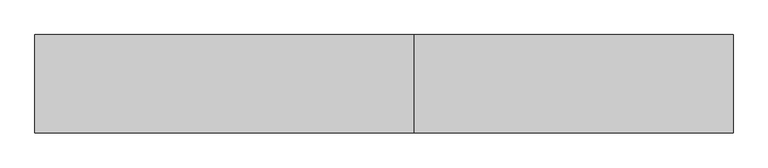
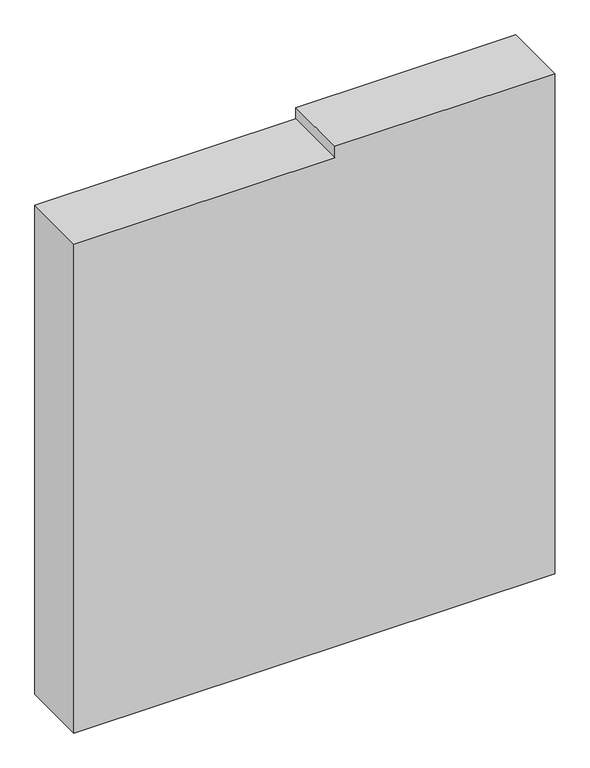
"""IFC4 building model written with IfcOpenShell, lengths in millimetres: proxy geometry."""

from ifc_helpers import new_model, si_unit, origin, place, context, project, spatial, faceted_brep, source, transform, mapped, element, save


def generic_models_cc848036(model_context):
    return source(origin(), model_context, "Body", "Brep", [
        faceted_brep([(-20694.9988284, -19100.7903364, 3130.0), (-20694.9988284, -18700.7903364, 3130.0), (-21494.9988284, -18700.7903364, 3130.0), (-21994.9988284, -18700.7903364, 3130.0), (-21994.9988284, -19100.7903364, 3130.0), (-20694.9988284, -19100.7903364, 0.0), (-23539.9988284, -19100.7903364, 0.0), (-23539.9988284, -18700.7903364, 0.0), (-21494.9988284, -18700.7903364, 0.0), (-20694.9988284, -18700.7903364, 0.0), (-21994.9988284, -19100.7903364, 3060.0), (-23539.9988284, -19100.7903364, 3060.0), (-23539.9988284, -18700.7903364, 3060.0), (-21994.9988284, -18700.7903364, 3060.0)], [[[0, 1, 2, 3, 4]], [[5, 6, 7, 8, 9]], [[6, 5, 0, 4, 10, 11]], [[1, 0, 5, 9]], [[2, 1, 9, 8]], [[8, 7, 12, 13, 3, 2]], [[7, 6, 11, 12]], [[10, 13, 12, 11]], [[13, 10, 4, 3]]]),
    ])


if __name__ == "__main__":
    model = new_model("IFC4")
    model_context = context("Model", 3, world=origin())
    ifc_project = project(units=[si_unit("LENGTHUNIT", "METRE", prefix="MILLI")], contexts=[model_context])
    site = spatial("IfcSite", under=ifc_project)
    building = spatial("IfcBuilding", under=site)
    placement = place(None, origin())
    generic_models_shape = generic_models_cc848036(model_context)
    element("IfcBuildingElementProxy", 1, Name="Generic Models", at=placement, inside=building, context=model_context, shape_type="MappedRepresentation", body=[
        mapped(generic_models_shape, transform((0.0, 0.0, 0.0), x_axis=(1.0, 0.0, 0.0), y_axis=(0.0, 1.0, 0.0), z_axis=(0.0, 0.0, 1.0))),
    ])
    save(model, "model.ifc")
